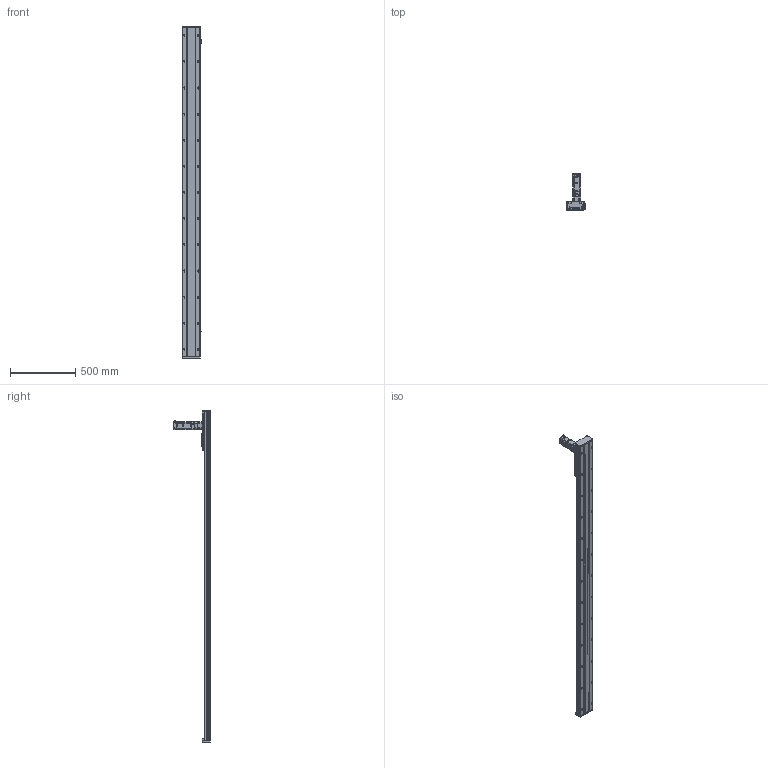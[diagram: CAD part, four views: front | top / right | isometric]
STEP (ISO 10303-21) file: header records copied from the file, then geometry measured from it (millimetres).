
FILE_DESCRIPTION (( 'STEP AP214' ), '1' );
FILE_NAME ('SHS140-S2200.STEP', '2022-12-05T08:36:45', ( '' ), ( '' ), 'SwSTEP 2.0', 'SolidWorks 2020', '' );
FILE_SCHEMA (( 'AUTOMOTIVE_DESIGN' ));
Length unit declared in the file: millimetre
Products named in the file (10): SHS140______.step; SGMJV-04ADA6E.step; SHS140-S2200; SHS140-S2200.step; 錨璃154^SHS140-S2200; SHS140____.step; _SXR24-100_b.step; SHS140-DZ-2200.step; SB-62-3-P1-C20604_203.step; EE-SX672.step
Assembly tree (16 placements, depth 3):
  SHS140-S2200
    SHS140-S2200.step
      SHS140-DZ-2200.step
      SHS140______.step
      SHS140____.step
      _SXR24-100_b.step  x6
      SB-62-3-P1-C20604_203.step
      SGMJV-04ADA6E.step
      EE-SX672.step  x3
    錨璃154^SHS140-S2200
Bounding box: 151.2 x 280.6 x 2540 mm (x, y, z)
Volume: 8947672.5 mm3; surface area: 2381044.2 mm2
Topology: 107 solids, 107 shells, 4330 faces, 11592 edges, 7547 vertices
Faces by surface type: plane 2340, cylinder 1273, bspline 406, cone 299, torus 12
Entity records: 128931 total; most frequent: CARTESIAN_POINT 45527, ORIENTED_EDGE 17790, DIRECTION 15760, EDGE_CURVE 8895, VERTEX_POINT 5827, LINE 5442, VECTOR 5442, AXIS2_PLACEMENT_3D 5159
